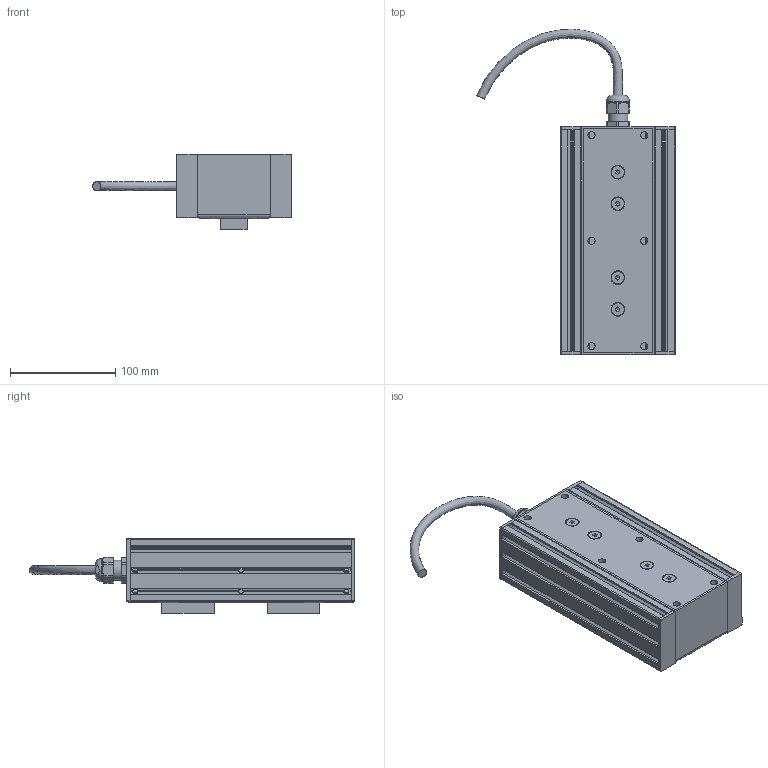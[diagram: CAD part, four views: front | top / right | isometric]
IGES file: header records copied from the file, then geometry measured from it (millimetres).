
Global section: file name: ELFQ-FA-PR102; native system: unknown; preprocessor: unknown; author: unknown; organization: unknown; date: 20240523.143801; units: millimetre
Bounding box: 188.37 x 308.54 x 71 mm (x, y, z)
Volume: 602001.6 mm3; surface area: 381426 mm2
Topology: 19 solids, 19 shells, 1814 faces, 10088 edges, 9222 vertices
Faces by surface type: bspline 1315, revolution 499
